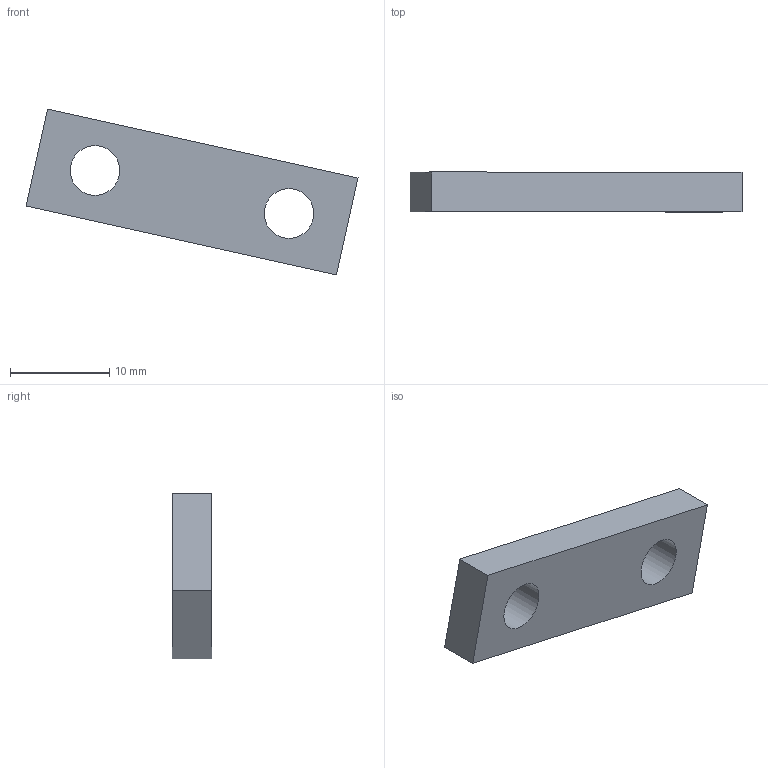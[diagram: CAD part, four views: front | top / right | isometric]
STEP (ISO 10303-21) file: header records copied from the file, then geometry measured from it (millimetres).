
FILE_DESCRIPTION(('Open CASCADE Model'),'2;1');
FILE_NAME('Open CASCADE Shape Model','2026-10-16T05:25:08',('Author'),( 'Open CASCADE'),'Open CASCADE STEP processor 7.9','Open CASCADE 7.9' ,'Unknown');
FILE_SCHEMA(('AUTOMOTIVE_DESIGN { 1 0 10303 214 1 1 1 1 }'));
Length unit declared in the file: millimetre
Products named in the file (1): Open CASCADE STEP translator 7.9 7
Bounding box: 33.41 x 4 x 16.69 mm (x, y, z)
Volume: 1122.9 mm3; surface area: 1023.1 mm2
Topology: 1 solids, 1 shells, 8 faces, 18 edges, 12 vertices
Faces by surface type: plane 6, cylinder 2
Full cylindrical faces by diameter (mm): 5 x2
Entity records: 490 total; most frequent: CARTESIAN_POINT 99, DIRECTION 72, LINE 46, VECTOR 46, ORIENTED_EDGE 36, PCURVE 36, DEFINITIONAL_REPRESENTATION 36, EDGE_CURVE 18
